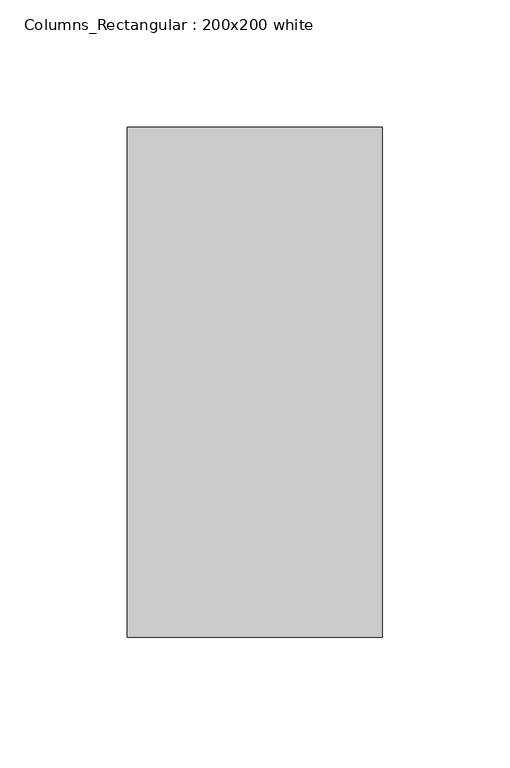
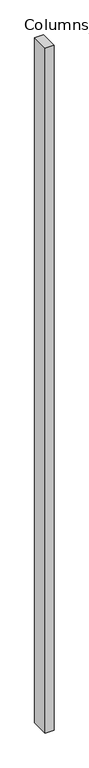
"""IFC4 building model written with IfcOpenShell, lengths in millimetres: column geometry, Columns_Rectangular : 200x200 white."""

import ifcopenshell
import ifcopenshell.guid

model = None  # the IFC model being written
_history = None  # IfcOwnerHistory: only IFC2X3 demands one
_inside = {}  # id of a spatial element -> (the spatial element, [elements in it])
_under = {}  # id of a project, library or spatial element -> (it, [spatial elements below it])
_declared = {}  # id of a project -> (the project, [libraries it declares])
_typed = {}  # id of a type object -> (the type object, [elements of that type])
_made_of = {}  # id of a material, layer set ... -> (it, [elements and type objects made of it])


def new_model(schema):
    """Start an empty IFC model of exactly this schema.

    Asked for "IFC4X3", IfcOpenShell would pick the latest addendum, in which some entities
    have other attributes; the version numbers below select the first issue.
    IFC2X3 requires an IfcOwnerHistory on every rooted entity: one is made here for all.
    """
    global model, _history
    if schema == "IFC4X3":
        model = ifcopenshell.file(schema_version=(4, 3, 0, 0))
    else:
        model = ifcopenshell.file(schema=schema)
    _inside.clear()
    _under.clear()
    _declared.clear()
    _typed.clear()
    _made_of.clear()
    _history = None
    if model.schema == "IFC2X3":
        org = make("IfcOrganization", Name="unknown")
        user = make(
            "IfcPersonAndOrganization",
            ThePerson=make("IfcPerson", FamilyName="unknown"),
            TheOrganization=org,
        )
        app = make(
            "IfcApplication",
            ApplicationDeveloper=org,
            Version="unknown",
            ApplicationFullName="unknown",
            ApplicationIdentifier="unknown",
        )
        _history = make(
            "IfcOwnerHistory",
            OwningUser=user,
            OwningApplication=app,
            ChangeAction="ADDED",
            CreationDate=0,
        )
    return model


def make(cls, **values):
    """One entity of the class cls with the attributes given. An attribute that is None is left unset."""
    return model.create_entity(
        cls, **{name: value for name, value in values.items() if value is not None}
    )


def rooted(cls, **values):
    """An entity with a GlobalId (a new one), such as an element, a storey or a relation."""
    return make(cls, GlobalId=ifcopenshell.guid.new(), OwnerHistory=_history, **values)


def si_unit(unit_type, name, prefix=None):
    """IfcSIUnit, for example si_unit("LENGTHUNIT", "METRE", prefix="MILLI")."""
    return make("IfcSIUnit", UnitType=unit_type, Prefix=prefix, Name=name)


def assignment(units):
    """IfcUnitAssignment: the units of a project."""
    return None if units is None else make("IfcUnitAssignment", Units=units)


def point(xyz):
    """IfcCartesianPoint."""
    return None if xyz is None else make("IfcCartesianPoint", Coordinates=xyz)


def direction(xyz):
    """IfcDirection."""
    return None if xyz is None else make("IfcDirection", DirectionRatios=xyz)


def frame(location, z_axis=None, x_axis=None):
    """IfcAxis2Placement3D, a coordinate frame: its origin and axes. An axis left out is left unset."""
    return make(
        "IfcAxis2Placement3D",
        Location=point(location),
        Axis=direction(z_axis),
        RefDirection=direction(x_axis),
    )


def origin():
    """The frame at (0, 0, 0) with its axes left unset."""
    return frame((0.0, 0.0, 0.0))


def place(relative_to, where):
    """IfcLocalPlacement: puts the frame where relative to a parent placement (None: the world)."""
    return make(
        "IfcLocalPlacement", PlacementRelTo=relative_to, RelativePlacement=where
    )


def context(
    kind, dimensions, precision=None, world=None, true_north=None, identifier=None
):
    """IfcGeometricRepresentationContext, for example the 3D "Model" context."""
    return make(
        "IfcGeometricRepresentationContext",
        ContextIdentifier=identifier,
        ContextType=kind,
        CoordinateSpaceDimension=dimensions,
        Precision=precision,
        WorldCoordinateSystem=world,
        TrueNorth=true_north,
    )


def project(units=None, contexts=None):
    """IfcProject with its units and contexts."""
    return rooted(
        "IfcProject",
        Name="project",
        RepresentationContexts=contexts,
        UnitsInContext=assignment(units),
    )


def spatial(cls, under=None, at=None, **own):
    """A site, building, storey or space (cls), placed at a placement, below another one or the project."""
    s = rooted(cls, ObjectPlacement=at, **own)
    if under is not None:
        _under.setdefault(under.id(), (under, []))[1].append(s)
    return s


def polyline(points):
    """IfcPolyline through the points."""
    return make("IfcPolyline", Points=[point(p) for p in points])


def outline(outer, holes=None, kind="AREA"):
    """IfcArbitraryClosedProfileDef: a profile drawn as a closed curve; with holes, ...WithVoids."""
    if holes is None:
        return make("IfcArbitraryClosedProfileDef", ProfileType=kind, OuterCurve=outer)
    return make(
        "IfcArbitraryProfileDefWithVoids",
        ProfileType=kind,
        OuterCurve=outer,
        InnerCurves=holes,
    )


def extrude(swept, where, along, depth):
    """IfcExtrudedAreaSolid: the profile swept, set in the frame where, extruded along a direction by depth."""
    return make(
        "IfcExtrudedAreaSolid",
        SweptArea=swept,
        Position=where,
        ExtrudedDirection=direction(along),
        Depth=depth,
    )


def shape(context_of_items, identifier, shape_type, items):
    """IfcShapeRepresentation: the items that make up one representation, for example the "Body"."""
    return make(
        "IfcShapeRepresentation",
        ContextOfItems=context_of_items,
        RepresentationIdentifier=identifier,
        RepresentationType=shape_type,
        Items=items,
    )


def source(mapping_origin, context_of_items, identifier, shape_type, items):
    """IfcRepresentationMap: a shape defined once, which mapped items show again and again."""
    return make(
        "IfcRepresentationMap",
        MappingOrigin=mapping_origin,
        MappedRepresentation=shape(context_of_items, identifier, shape_type, items),
    )


def transform(
    local_origin,
    x_axis=None,
    y_axis=None,
    z_axis=None,
    scale=None,
    scale2=None,
    scale3=None,
    uniform=True,
):
    """IfcCartesianTransformationOperator3D, or its non-uniform kind. x_axis, y_axis, z_axis: its Axis1, 2, 3."""
    if uniform:
        return make(
            "IfcCartesianTransformationOperator3D",
            Axis1=direction(x_axis),
            Axis2=direction(y_axis),
            LocalOrigin=point(local_origin),
            Scale=scale,
            Axis3=direction(z_axis),
        )
    return make(
        "IfcCartesianTransformationOperator3DnonUniform",
        Axis1=direction(x_axis),
        Axis2=direction(y_axis),
        LocalOrigin=point(local_origin),
        Scale=scale,
        Axis3=direction(z_axis),
        Scale2=scale2,
        Scale3=scale3,
    )


def mapped(mapping_source, mapping_target):
    """IfcMappedItem: shows the shape of a source again, moved by a transform."""
    return make(
        "IfcMappedItem", MappingSource=mapping_source, MappingTarget=mapping_target
    )


def made_of(thing, what):
    """Note that an element or type object is made of a material, layer set ...; save() writes the relation."""
    if what is not None:
        _made_of.setdefault(what.id(), (what, []))[1].append(thing)
    return thing


def element(
    cls,
    number,
    at=None,
    inside=None,
    cuts=None,
    type_object=None,
    material=None,
    context=None,
    identifier="Body",
    shape_type=None,
    held_by="IfcProductDefinitionShape",
    body=None,
    shapes=None,
    **own,
):
    """One element of the class cls, such as IfcWall. Its Tag is "e" and its number.

    at: its placement. inside: the storey or other place that contains it. cuts: it is an
    opening in that element (IfcRelVoidsElement). A single representation is given by context,
    identifier, shape_type and body (its items); several are given by shapes. held_by: the class
    of the entity that holds the representations. save() writes the other relations.
    """
    e = rooted(cls, Tag="e%d" % number, ObjectPlacement=at, **own)
    if body is not None:
        shapes = [shape(context, identifier, shape_type, body)]
    if shapes is not None:
        e.Representation = make(held_by, Representations=shapes)
    if inside is not None:
        _inside.setdefault(inside.id(), (inside, []))[1].append(e)
    if cuts is not None:
        rooted(
            "IfcRelVoidsElement", RelatingBuildingElement=cuts, RelatedOpeningElement=e
        )
    if type_object is not None:
        _typed.setdefault(type_object.id(), (type_object, []))[1].append(e)
    return made_of(e, material)


def aggregate(whole, parts):
    """IfcRelAggregates: a whole, such as a stair, and the parts it consists of."""
    return rooted("IfcRelAggregates", RelatingObject=whole, RelatedObjects=parts)


def save(model, path):
    """Write the relations noted so far, then the file.

    IfcRelAggregates (storeys below a building ...), IfcRelContainedInSpatialStructure (elements
    in a storey), IfcRelDefinesByType, IfcRelAssociatesMaterial and IfcRelDeclares: one each for
    every whole, place, type object, material and project.
    """
    for whole, parts in _under.values():
        aggregate(whole, parts)
    for where, things in _inside.values():
        rooted(
            "IfcRelContainedInSpatialStructure",
            RelatedElements=things,
            RelatingStructure=where,
        )
    for kind, things in _typed.values():
        rooted("IfcRelDefinesByType", RelatedObjects=things, RelatingType=kind)
    for what, things in _made_of.values():
        rooted("IfcRelAssociatesMaterial", RelatedObjects=things, RelatingMaterial=what)
    for by, libraries in _declared.values():
        rooted("IfcRelDeclares", RelatingContext=by, RelatedDefinitions=libraries)
    model.write(path)


def columns_rectangular_200x200_white_30d1f7a3(model_context):
    return source(origin(), model_context, "Body", "SweptSolid", [
        extrude(outline(polyline([(50.0, -100.0), (-50.0, -100.0), (-50.0, 100.0), (50.0, 100.0), (50.0, -100.0)])), frame((0.0, 0.0, 5800.0), z_axis=(0.0, 0.0, 1.0), x_axis=(1.0, 0.0, 0.0)), (0.0, 0.0, 1.0), 8000.0),
    ])


if __name__ == "__main__":
    model = new_model("IFC4")
    model_context = context("Model", 3, world=origin())
    ifc_project = project(units=[si_unit("LENGTHUNIT", "METRE", prefix="MILLI")], contexts=[model_context])
    site = spatial("IfcSite", under=ifc_project)
    building = spatial("IfcBuilding", under=site)
    placement = place(None, origin())
    columns_rectangular_200x200_white_shape = columns_rectangular_200x200_white_30d1f7a3(model_context)
    element("IfcColumn", 1, ObjectType="Columns_Rectangular : 200x200 white", at=placement, inside=building, context=model_context, shape_type="MappedRepresentation", body=[
        mapped(columns_rectangular_200x200_white_shape, transform((0.0, 0.0, 0.0), x_axis=(1.0, 0.0, 0.0), y_axis=(0.0, 1.0, 0.0), z_axis=(0.0, 0.0, 1.0))),
    ])
    save(model, "model.ifc")
